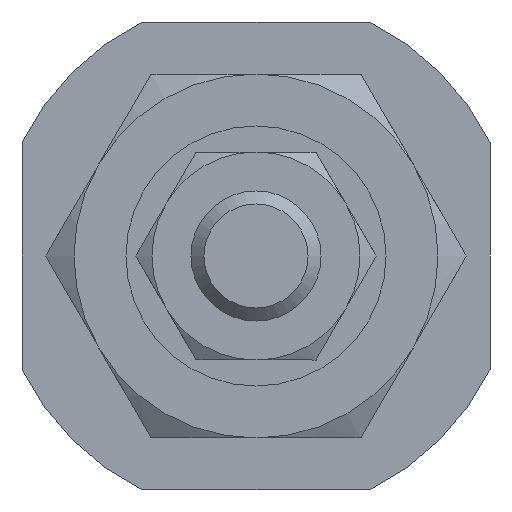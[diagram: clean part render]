
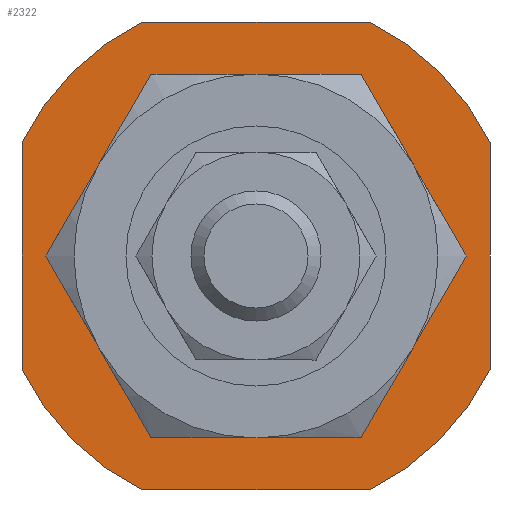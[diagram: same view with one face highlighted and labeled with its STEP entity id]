
A CAD part, left-side view. The second image highlights one B-rep face of the part: STEP entity #2322.
In plain terms, the highlighted planar face has unit normal (-1, 0, 0).
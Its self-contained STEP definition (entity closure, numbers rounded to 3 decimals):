
#1926=CARTESIAN_POINT('',(-30.899,-4.359,9.));
#1927=VERTEX_POINT('',#1926);
#1942=CARTESIAN_POINT('',(-30.899,4.359,9.0));
#1943=VERTEX_POINT('',#1942);
#1950=CARTESIAN_POINT('',(-30.899,-4.359,9.));
#1951=DIRECTION('',(0.0,1.0,0.0));
#1952=VECTOR('',#1951,8.718);
#1953=LINE('',#1950,#1952);
#1954=EDGE_CURVE('',#1927,#1943,#1953,.T.);
#2003=CARTESIAN_POINT('',(-30.899,4.359,-9.0));
#2004=VERTEX_POINT('',#2003);
#2019=CARTESIAN_POINT('',(-30.899,-4.359,-9.));
#2020=VERTEX_POINT('',#2019);
#2027=CARTESIAN_POINT('',(-30.899,4.359,-9.0));
#2028=DIRECTION('',(0.0,-1.0,0.0));
#2029=VECTOR('',#2028,8.718);
#2030=LINE('',#2027,#2029);
#2031=EDGE_CURVE('',#2004,#2020,#2030,.T.);
#2043=CARTESIAN_POINT('',(-30.899,-9.,-4.359));
#2044=VERTEX_POINT('',#2043);
#2059=CARTESIAN_POINT('',(-30.899,-9.,4.359));
#2060=VERTEX_POINT('',#2059);
#2067=CARTESIAN_POINT('',(-30.899,-9.,-4.359));
#2068=DIRECTION('',(0.0,0.0,1.0));
#2069=VECTOR('',#2068,8.718);
#2070=LINE('',#2067,#2069);
#2071=EDGE_CURVE('',#2044,#2060,#2070,.T.);
#2083=CARTESIAN_POINT('',(-30.899,9.,4.359));
#2084=VERTEX_POINT('',#2083);
#2099=CARTESIAN_POINT('',(-30.899,9.,-4.359));
#2100=VERTEX_POINT('',#2099);
#2107=CARTESIAN_POINT('',(-30.899,9.,4.359));
#2108=DIRECTION('',(0.0,0.0,-1.0));
#2109=VECTOR('',#2108,8.718);
#2110=LINE('',#2107,#2109);
#2111=EDGE_CURVE('',#2084,#2100,#2110,.T.);
#2232=CARTESIAN_POINT('',(-30.899,0.,0.0));
#2233=DIRECTION('',(-1.0,0.0,0.0));
#2234=DIRECTION('',(0.0,1.0,0.0));
#2235=AXIS2_PLACEMENT_3D('',#2232,#2233,#2234);
#2236=CIRCLE('',#2235,10.);
#2237=EDGE_CURVE('',#1943,#2084,#2236,.T.);
#2256=CARTESIAN_POINT('',(-30.899,0.,0.0));
#2257=DIRECTION('',(-1.0,0.0,0.0));
#2258=DIRECTION('',(0.0,1.0,0.0));
#2259=AXIS2_PLACEMENT_3D('',#2256,#2257,#2258);
#2260=CIRCLE('',#2259,10.);
#2261=EDGE_CURVE('',#2020,#2044,#2260,.T.);
#2272=CARTESIAN_POINT('',(-30.899,0.,0.0));
#2273=DIRECTION('',(-1.0,0.0,0.0));
#2274=DIRECTION('',(0.0,1.0,0.0));
#2275=AXIS2_PLACEMENT_3D('',#2272,#2273,#2274);
#2276=CIRCLE('',#2275,10.);
#2277=EDGE_CURVE('',#2100,#2004,#2276,.T.);
#2290=CARTESIAN_POINT('',(-30.899,7.5,0.0));
#2291=DIRECTION('',(-1.0,0.0,0.0));
#2292=DIRECTION('',(0.0,0.0,1.0));
#2293=AXIS2_PLACEMENT_3D('',#2290,#2291,#2292);
#2294=PLANE('',#2293);
#2295=ORIENTED_EDGE('',*,*,#1954,.T.);
#2296=ORIENTED_EDGE('',*,*,#2237,.T.);
#2297=ORIENTED_EDGE('',*,*,#2111,.T.);
#2298=ORIENTED_EDGE('',*,*,#2277,.T.);
#2299=ORIENTED_EDGE('',*,*,#2031,.T.);
#2300=ORIENTED_EDGE('',*,*,#2261,.T.);
#2301=ORIENTED_EDGE('',*,*,#2071,.T.);
#2302=CARTESIAN_POINT('',(-30.899,0.,0.0));
#2303=DIRECTION('',(-1.0,0.0,0.0));
#2304=DIRECTION('',(0.0,1.0,0.0));
#2305=AXIS2_PLACEMENT_3D('',#2302,#2303,#2304);
#2306=CIRCLE('',#2305,10.);
#2307=EDGE_CURVE('',#2060,#1927,#2306,.T.);
#2308=ORIENTED_EDGE('',*,*,#2307,.T.);
#2309=EDGE_LOOP('',(#2295,#2296,#2297,#2298,#2299,#2300,#2301,#2308));
#2310=FACE_OUTER_BOUND('',#2309,.T.);
#2311=CARTESIAN_POINT('',(-30.899,5.,0.0));
#2312=VERTEX_POINT('',#2311);
#2313=CARTESIAN_POINT('',(-30.899,0.,0.0));
#2314=DIRECTION('',(-1.0,0.0,0.0));
#2315=DIRECTION('',(0.0,1.0,0.0));
#2316=AXIS2_PLACEMENT_3D('',#2313,#2314,#2315);
#2317=CIRCLE('',#2316,5.);
#2318=EDGE_CURVE('',#2312,#2312,#2317,.T.);
#2319=ORIENTED_EDGE('',*,*,#2318,.F.);
#2320=EDGE_LOOP('',(#2319));
#2321=FACE_BOUND('',#2320,.T.);
#2322=ADVANCED_FACE('',(#2310,#2321),#2294,.T.);
